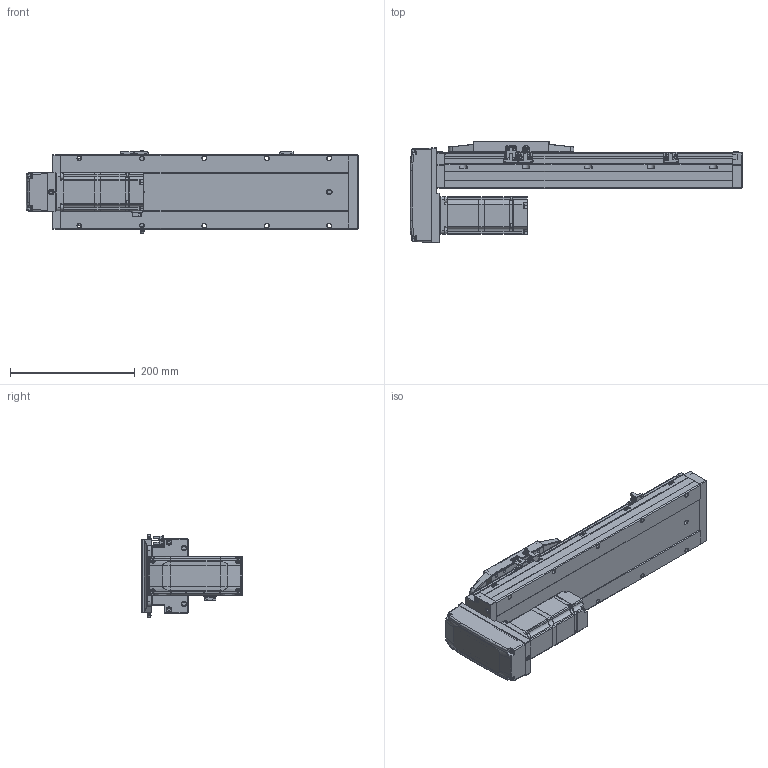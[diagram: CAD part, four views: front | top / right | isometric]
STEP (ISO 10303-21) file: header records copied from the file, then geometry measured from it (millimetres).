
FILE_DESCRIPTION (( 'STEP AP214' ), '1' );
FILE_NAME ('CTH12-L10-S250-BM-C40（简）.STEP', '2023-02-04T06:51:23', ( '' ), ( '' ), 'SwSTEP 2.0', 'SolidWorks 2018', '' );
FILE_SCHEMA (( 'AUTOMOTIVE_DESIGN' ));
Length unit declared in the file: millimetre
Products named in the file (25): CTH12-BM-02; CTH12-L10-S250-BM-C40（简）; 嫖萇羲壽郪磁1; hex nuts, style 1-grades ab gb_GB_FASTENER_NUT_SNAB1 M3-N; CTH12-BL_body_4; CTH嫖萇羲壽假蚾啣; PM-Y45; CTH12_body_3; 嫖萇羲壽郪磁2; 蚐郲; CTH12覜茼え; CTH12賑怢郪磁; AC60_Valor predeterminado; BM-C40; CTH400W假蚾啣; 内六角圆柱头螺钉M3-2; CTH12; CTH12賑怢ㄗ潠ㄘ; 内六角圆柱头螺钉M5装饰螺钉; 内六角圆柱头螺钉M3-1; 内六角圆柱头螺钉M3; 湮賑怢  裔赽-1(CTH12)賑怢; CTH400W垫板（3个厚）; CTH12底座-L461简（250行程）; CTH8耜蚾蟀諉啣ㄗ潠ㄘ
Assembly tree (45 placements, depth 4):
  CTH12-L10-S250-BM-C40（简）
    CTH12底座-L461简（250行程）
    蚐郲  x2
    CTH12_body_3
    CTH12-BL_body_4
    CTH12賑怢郪磁
      CTH12
        湮賑怢  裔赽-1(CTH12)賑怢
        CTH12賑怢ㄗ潠ㄘ
    CTH12覜茼え
    嫖萇羲壽郪磁1  x2
      CTH嫖萇羲壽假蚾啣
      PM-Y45
      内六角圆柱头螺钉M3-2
      内六角圆柱头螺钉M3-1
      hex nuts, style 1-grades ab gb_GB_FASTENER_NUT_SNAB1 M3-N
    嫖萇羲壽郪磁2
      CTH嫖萇羲壽假蚾啣
      PM-Y45
      内六角圆柱头螺钉M3-1  x2
      内六角圆柱头螺钉M3-2  x2
      hex nuts, style 1-grades ab gb_GB_FASTENER_NUT_SNAB1 M3-N  x2
    BM-C40
      CTH12-BM-02
      CTH8耜蚾蟀諉啣ㄗ潠ㄘ
    CTH400W垫板（3个厚）
    AC60_Valor predeterminado
    内六角圆柱头螺钉M3  x6
    内六角圆柱头螺钉M5装饰螺钉  x4
    CTH400W假蚾啣
Bounding box: 531.5 x 162.5 x 131.52 mm (x, y, z)
Volume: 3874789 mm3; surface area: 472623.1 mm2
Topology: 47 solids, 48 shells, 2640 faces, 6680 edges, 4259 vertices
Faces by surface type: plane 1438, cylinder 793, cone 255, bspline 102, torus 52
Entity records: 71265 total; most frequent: CARTESIAN_POINT 16349, ORIENTED_EDGE 10540, DIRECTION 10471, EDGE_CURVE 5270, AXIS2_PLACEMENT_3D 3547, LINE 3377, VECTOR 3377, VERTEX_POINT 3363
